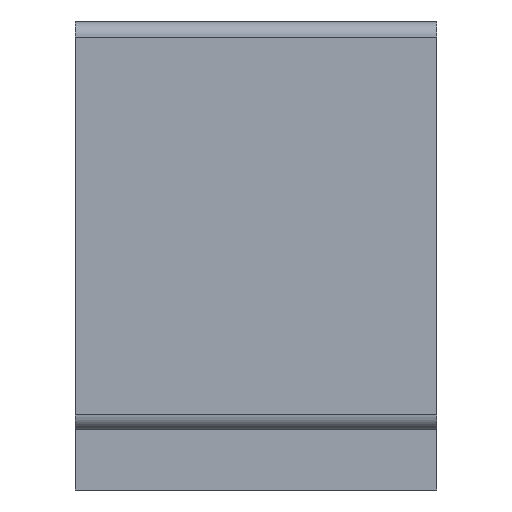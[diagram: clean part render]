
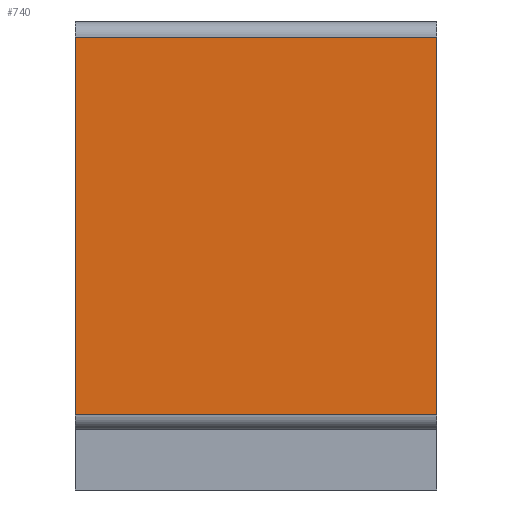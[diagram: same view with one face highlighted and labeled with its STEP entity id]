
A CAD part, left-side view. The second image highlights one B-rep face of the part: STEP entity #740.
In plain terms, the highlighted planar face has unit normal (-1, 0, 0).
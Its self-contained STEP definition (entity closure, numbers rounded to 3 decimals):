
#56=PLANE('',#812);
#82=FACE_OUTER_BOUND('',#121,.T.);
#121=EDGE_LOOP('',(#596,#597,#598,#599));
#173=LINE('',#1117,#235);
#192=LINE('',#1169,#254);
#201=LINE('',#1191,#263);
#202=LINE('',#1193,#264);
#235=VECTOR('',#888,10.);
#254=VECTOR('',#941,10.);
#263=VECTOR('',#966,10.);
#264=VECTOR('',#969,10.);
#344=VERTEX_POINT('',#1114);
#345=VERTEX_POINT('',#1116);
#360=VERTEX_POINT('',#1166);
#361=VERTEX_POINT('',#1168);
#413=EDGE_CURVE('',#345,#344,#173,.T.);
#439=EDGE_CURVE('',#361,#360,#192,.T.);
#451=EDGE_CURVE('',#344,#361,#201,.T.);
#452=EDGE_CURVE('',#345,#360,#202,.T.);
#596=ORIENTED_EDGE('',*,*,#413,.T.);
#597=ORIENTED_EDGE('',*,*,#451,.T.);
#598=ORIENTED_EDGE('',*,*,#439,.T.);
#599=ORIENTED_EDGE('',*,*,#452,.F.);
#740=ADVANCED_FACE('',(#82),#56,.T.);
#812=AXIS2_PLACEMENT_3D('',#1192,#967,#968);
#888=DIRECTION('',(0.,0.,-1.));
#941=DIRECTION('',(0.,0.,1.));
#966=DIRECTION('',(0.,-1.,0.));
#967=DIRECTION('center_axis',(-1.,0.,0.));
#968=DIRECTION('ref_axis',(0.,1.,0.));
#969=DIRECTION('',(0.,-1.,0.));
#1114=CARTESIAN_POINT('',(-26.5,60.,5.));
#1116=CARTESIAN_POINT('',(-26.5,60.,130.4));
#1117=CARTESIAN_POINT('',(-26.5,60.,60.2));
#1166=CARTESIAN_POINT('',(-26.5,-60.,130.4));
#1168=CARTESIAN_POINT('',(-26.5,-60.,5.));
#1169=CARTESIAN_POINT('',(-26.5,-60.,60.2));
#1191=CARTESIAN_POINT('',(-26.5,0.,5.));
#1192=CARTESIAN_POINT('Origin',(-26.5,0.,5.));
#1193=CARTESIAN_POINT('',(-26.5,0.,130.4));
